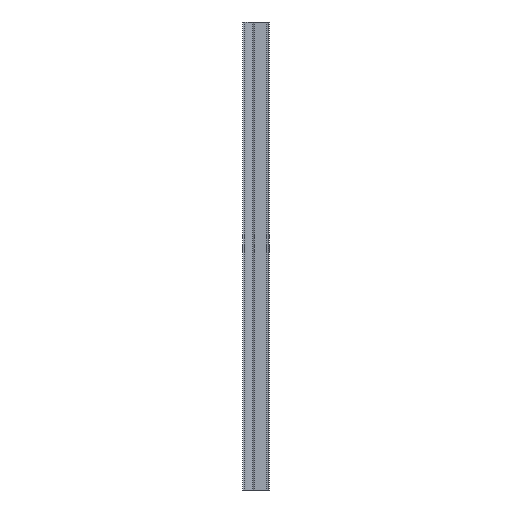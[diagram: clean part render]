
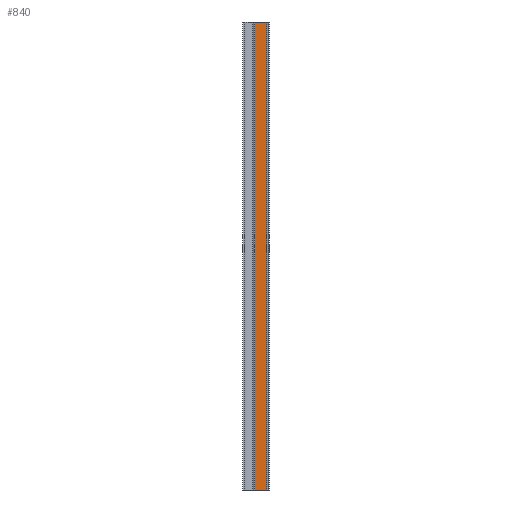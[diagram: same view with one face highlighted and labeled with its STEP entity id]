
A CAD part, front view. The second image highlights one B-rep face of the part: STEP entity #840.
In plain terms, the highlighted planar face has unit normal (0, -1, 0).
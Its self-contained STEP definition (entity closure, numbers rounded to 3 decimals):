
#5 = ORIENTED_EDGE ( 'NONE', *, *, #626, .T. ) ;
#29 = VERTEX_POINT ( 'NONE', #141 ) ;
#63 = ORIENTED_EDGE ( 'NONE', *, *, #186, .T. ) ;
#65 = LINE ( 'NONE', #867, #82 ) ;
#82 = VECTOR ( 'NONE', #196, 1000. ) ;
#115 = DIRECTION ( 'NONE',  ( 0., 1., 0. ) ) ;
#119 = DIRECTION ( 'NONE',  ( 1., 0., 0. ) ) ;
#123 = EDGE_LOOP ( 'NONE', ( #414, #63, #5, #135 ) ) ;
#135 = ORIENTED_EDGE ( 'NONE', *, *, #790, .F. ) ;
#141 = CARTESIAN_POINT ( 'NONE',  ( -7., 0., 250. ) ) ;
#169 = DIRECTION ( 'NONE',  ( 0., 0., -1. ) ) ;
#177 = VECTOR ( 'NONE', #169, 1000. ) ;
#186 = EDGE_CURVE ( 'NONE', #29, #522, #502, .T. ) ;
#187 = CARTESIAN_POINT ( 'NONE',  ( 6., 0., 250. ) ) ;
#196 = DIRECTION ( 'NONE',  ( 1., 0., 0. ) ) ;
#291 = DIRECTION ( 'NONE',  ( 0., 0., -1. ) ) ;
#324 = LINE ( 'NONE', #528, #594 ) ;
#364 = VERTEX_POINT ( 'NONE', #753 ) ;
#414 = ORIENTED_EDGE ( 'NONE', *, *, #656, .F. ) ;
#495 = DIRECTION ( 'NONE',  ( 0., 0., 1. ) ) ;
#496 = CARTESIAN_POINT ( 'NONE',  ( -7., 0., -250. ) ) ;
#502 = LINE ( 'NONE', #780, #177 ) ;
#504 = PLANE ( 'NONE',  #858 ) ;
#522 = VERTEX_POINT ( 'NONE', #496 ) ;
#528 = CARTESIAN_POINT ( 'NONE',  ( -9., 0., 250. ) ) ;
#594 = VECTOR ( 'NONE', #119, 1000. ) ;
#604 = CARTESIAN_POINT ( 'NONE',  ( 6., 0., 250. ) ) ;
#619 = FACE_OUTER_BOUND ( 'NONE', #123, .T. ) ;
#626 = EDGE_CURVE ( 'NONE', #522, #364, #65, .T. ) ;
#656 = EDGE_CURVE ( 'NONE', #29, #716, #324, .T. ) ;
#702 = CARTESIAN_POINT ( 'NONE',  ( -9., 0., 250. ) ) ;
#716 = VERTEX_POINT ( 'NONE', #187 ) ;
#753 = CARTESIAN_POINT ( 'NONE',  ( 6., 0., -250. ) ) ;
#775 = VECTOR ( 'NONE', #291, 1000. ) ;
#780 = CARTESIAN_POINT ( 'NONE',  ( -7., 0., 250. ) ) ;
#790 = EDGE_CURVE ( 'NONE', #716, #364, #832, .T. ) ;
#832 = LINE ( 'NONE', #604, #775 ) ;
#840 = ADVANCED_FACE ( 'NONE', ( #619 ), #504, .F. ) ;
#858 = AXIS2_PLACEMENT_3D ( 'NONE', #702, #115, #495 ) ;
#867 = CARTESIAN_POINT ( 'NONE',  ( -9., 0., -250. ) ) ;
